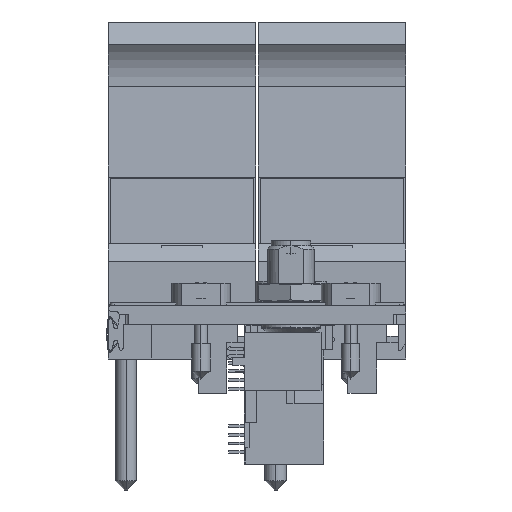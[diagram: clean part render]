
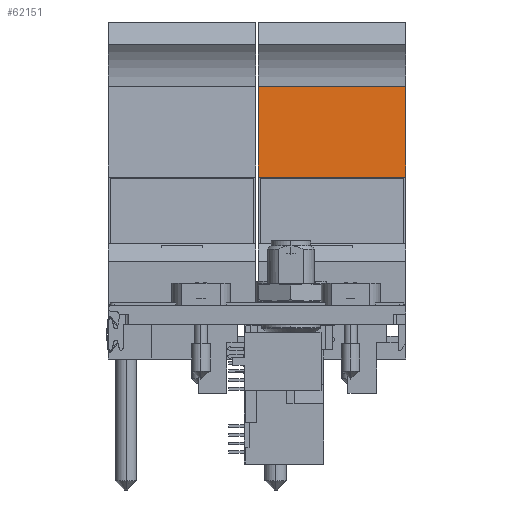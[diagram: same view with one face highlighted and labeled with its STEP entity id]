
A CAD part, left-side view. The second image highlights one B-rep face of the part: STEP entity #62151.
In plain terms, the highlighted planar face has unit normal (-0.998, 0, 0.065).
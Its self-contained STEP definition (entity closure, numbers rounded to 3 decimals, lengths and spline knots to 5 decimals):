
#5326=DIRECTION('',(-0.065,0.,-0.998));
#5327=VECTOR('',#5326,0.48638);
#5328=CARTESIAN_POINT('',(1.7809,-0.863,4.48144));
#5329=LINE('',#5328,#5327);
#5683=DIRECTION('',(-0.065,0.,-0.998));
#5684=VECTOR('',#5683,0.48638);
#5685=CARTESIAN_POINT('',(1.7809,-0.075,4.48144));
#5686=LINE('',#5685,#5684);
#5921=DIRECTION('',(0.,1.,0.));
#5922=VECTOR('',#5921,0.788);
#5923=CARTESIAN_POINT('',(1.74912,-0.863,3.9961));
#5924=LINE('',#5923,#5922);
#5925=DIRECTION('',(0.,-1.,0.));
#5926=VECTOR('',#5925,0.788);
#5927=CARTESIAN_POINT('',(1.7809,-0.075,4.48144));
#5928=LINE('',#5927,#5926);
#54630=CARTESIAN_POINT('',(1.7809,-0.863,4.48144));
#54631=VERTEX_POINT('',#54630);
#54636=CARTESIAN_POINT('',(1.7809,-0.075,4.48144));
#54637=VERTEX_POINT('',#54636);
#54748=CARTESIAN_POINT('',(1.74912,-0.863,3.9961));
#54749=VERTEX_POINT('',#54748);
#54756=CARTESIAN_POINT('',(1.74912,-0.075,3.9961));
#54757=VERTEX_POINT('',#54756);
#62139=CARTESIAN_POINT('',(1.7809,-0.075,4.48144));
#62140=DIRECTION('',(0.998,0.,-0.065));
#62141=DIRECTION('',(-0.065,0.,-0.998));
#62142=AXIS2_PLACEMENT_3D('',#62139,#62140,#62141);
#62143=PLANE('',#62142);
#62145=ORIENTED_EDGE('',*,*,#62144,.T.);
#62146=ORIENTED_EDGE('',*,*,#61760,.F.);
#62147=ORIENTED_EDGE('',*,*,#62132,.T.);
#62148=ORIENTED_EDGE('',*,*,#61452,.T.);
#62149=EDGE_LOOP('',(#62145,#62146,#62147,#62148));
#62150=FACE_OUTER_BOUND('',#62149,.F.);
#62151=ADVANCED_FACE('',(#62150),#62143,.F.);
#61452=EDGE_CURVE('',#54631,#54749,#5329,.T.);
#61760=EDGE_CURVE('',#54637,#54757,#5686,.T.);
#62132=EDGE_CURVE('',#54637,#54631,#5928,.T.);
#62144=EDGE_CURVE('',#54749,#54757,#5924,.T.);
